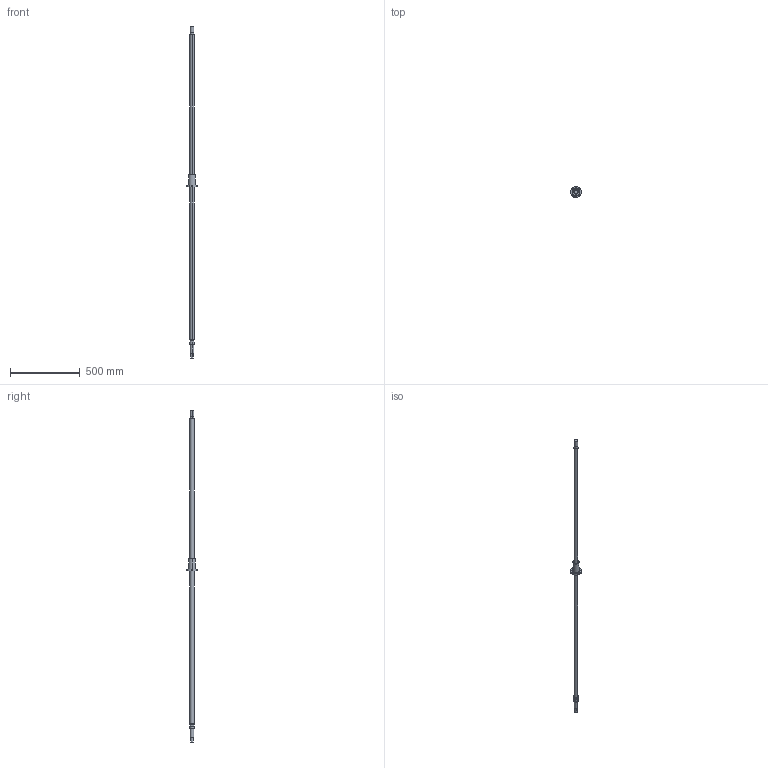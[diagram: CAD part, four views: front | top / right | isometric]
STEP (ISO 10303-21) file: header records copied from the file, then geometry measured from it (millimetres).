
FILE_DESCRIPTION((''),'2;1');
FILE_NAME('ASM0001_ASM','2008-04-11T',('cmliu'),(''),'PRO/ENGINEER BY PARAMETRIC TECHNOLOGY CORPORATION, 2004110','PRO/ENGINEER BY PARAMETRIC TECHNOLOGY CORPORATION, 2004110','');
FILE_SCHEMA(('CONFIG_CONTROL_DESIGN'));
Length unit declared in the file: millimetre
Products named in the file (3): 3232; 32-32K2; ASM0001_ASM
Assembly tree (2 placements, depth 2):
  ASM0001_ASM
    3232
    32-32K2
Bounding box: 80 x 80 x 2376 mm (x, y, z)
Volume: 2016350.6 mm3; surface area: 273086.4 mm2
Topology: 2 solids, 2 shells, 67 faces, 156 edges, 104 vertices
Faces by surface type: cylinder 45, plane 22
Entity records: 2163 total; most frequent: CARTESIAN_POINT 426, DIRECTION 382, ORIENTED_EDGE 312, AXIS2_PLACEMENT_3D 162, EDGE_CURVE 156, VERTEX_POINT 104, EDGE_LOOP 94, CIRCLE 90
